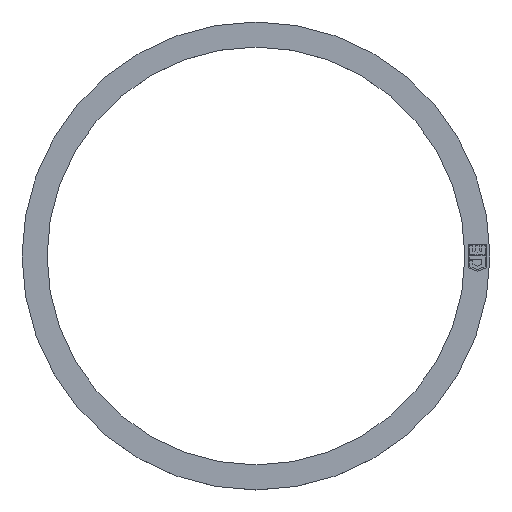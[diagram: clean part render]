
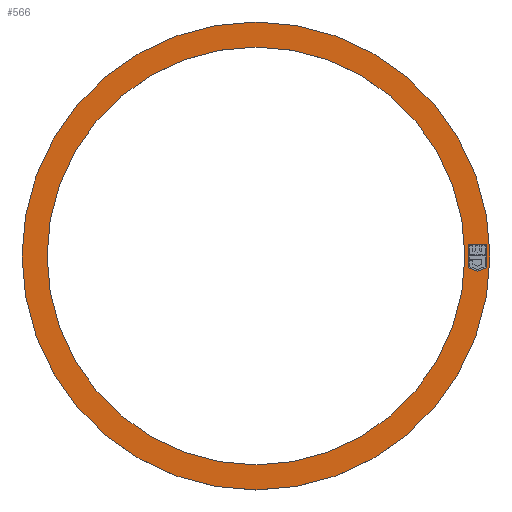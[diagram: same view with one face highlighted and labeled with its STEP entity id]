
A CAD part, top view. The second image highlights one B-rep face of the part: STEP entity #566.
In plain terms, the highlighted planar face has unit normal (0, 0, 1).
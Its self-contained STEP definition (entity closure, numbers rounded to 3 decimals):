
#274 = CARTESIAN_POINT ( 'NONE',  ( -28., 0., 2. ) ) ;
#284 = CARTESIAN_POINT ( 'NONE',  ( 28., 0., 2. ) ) ;
#285 = DIRECTION ( 'NONE',  ( 1., 0., 0. ) ) ;
#286 = DIRECTION ( 'NONE',  ( 0., 0., 1. ) ) ;
#287 = CARTESIAN_POINT ( 'NONE',  ( 0., 0., 2. ) ) ;
#288 = AXIS2_PLACEMENT_3D ( 'NONE', #287, #286, #285 ) ;
#289 = CIRCLE ( 'NONE', #288, 28. ) ;
#333 = CARTESIAN_POINT ( 'NONE',  ( -25., 0., 2. ) ) ;
#532 = EDGE_CURVE ( 'NONE', #942, #533, #1076, .T. ) ;
#533 = VERTEX_POINT ( 'NONE', #1071 ) ;
#556 = EDGE_CURVE ( 'NONE', #579, #653, #1104, .T. ) ;
#560 = ORIENTED_EDGE ( 'NONE', *, *, #561, .T. ) ;
#561 = EDGE_CURVE ( 'NONE', #915, #923, #1149, .T. ) ;
#562 = EDGE_CURVE ( 'NONE', #533, #942, #1162, .T. ) ;
#563 = EDGE_LOOP ( 'NONE', ( #564, #565 ) ) ;
#564 = ORIENTED_EDGE ( 'NONE', *, *, #532, .F. ) ;
#565 = ORIENTED_EDGE ( 'NONE', *, *, #562, .F. ) ;
#566 = ADVANCED_FACE ( 'NONE', ( #1245, #1244, #1243 ), #1241, .T. ) ;
#567 = EDGE_LOOP ( 'NONE', ( #560, #594 ) ) ;
#574 = ORIENTED_EDGE ( 'NONE', *, *, #584, .T. ) ;
#575 = ORIENTED_EDGE ( 'NONE', *, *, #583, .T. ) ;
#577 = VERTEX_POINT ( 'NONE', #1085 ) ;
#578 = VERTEX_POINT ( 'NONE', #1084 ) ;
#579 = VERTEX_POINT ( 'NONE', #1130 ) ;
#580 = EDGE_CURVE ( 'NONE', #582, #577, #1129, .T. ) ;
#581 = ORIENTED_EDGE ( 'NONE', *, *, #654, .T. ) ;
#582 = VERTEX_POINT ( 'NONE', #1100 ) ;
#583 = EDGE_CURVE ( 'NONE', #577, #578, #1099, .T. ) ;
#584 = EDGE_CURVE ( 'NONE', #578, #579, #1134, .T. ) ;
#585 = ORIENTED_EDGE ( 'NONE', *, *, #556, .T. ) ;
#586 = ORIENTED_EDGE ( 'NONE', *, *, #580, .T. ) ;
#594 = ORIENTED_EDGE ( 'NONE', *, *, #922, .T. ) ;
#595 = EDGE_LOOP ( 'NONE', ( #574, #585, #581, #586, #575 ) ) ;
#653 = VERTEX_POINT ( 'NONE', #1145 ) ;
#654 = EDGE_CURVE ( 'NONE', #653, #582, #1144, .T. ) ;
#915 = VERTEX_POINT ( 'NONE', #274 ) ;
#922 = EDGE_CURVE ( 'NONE', #923, #915, #289, .T. ) ;
#923 = VERTEX_POINT ( 'NONE', #284 ) ;
#942 = VERTEX_POINT ( 'NONE', #333 ) ;
#1071 = CARTESIAN_POINT ( 'NONE',  ( 25., 0., 2. ) ) ;
#1072 = DIRECTION ( 'NONE',  ( 1., 0., 0. ) ) ;
#1073 = DIRECTION ( 'NONE',  ( 0., 0., 1. ) ) ;
#1074 = CARTESIAN_POINT ( 'NONE',  ( 0., 0., 2. ) ) ;
#1075 = AXIS2_PLACEMENT_3D ( 'NONE', #1074, #1073, #1072 ) ;
#1076 = CIRCLE ( 'NONE', #1075, 25. ) ;
#1084 = CARTESIAN_POINT ( 'NONE',  ( 27.595, -1.393, 2. ) ) ;
#1085 = CARTESIAN_POINT ( 'NONE',  ( 27.595, 1.393, 2. ) ) ;
#1091 = DIRECTION ( 'NONE',  ( 1., 0., 0. ) ) ;
#1092 = DIRECTION ( 'NONE',  ( 0., 0., 1. ) ) ;
#1093 = CARTESIAN_POINT ( 'NONE',  ( 0., 0., 2. ) ) ;
#1094 = AXIS2_PLACEMENT_3D ( 'NONE', #1093, #1092, #1091 ) ;
#1096 = DIRECTION ( 'NONE',  ( 0., -1., 0. ) ) ;
#1097 = VECTOR ( 'NONE', #1096, 1000. ) ;
#1098 = CARTESIAN_POINT ( 'NONE',  ( 27.595, 1.393, 2. ) ) ;
#1099 = LINE ( 'NONE', #1098, #1097 ) ;
#1100 = CARTESIAN_POINT ( 'NONE',  ( 25.405, 1.393, 2. ) ) ;
#1101 = DIRECTION ( 'NONE',  ( -0.924, 0.383, 0. ) ) ;
#1102 = VECTOR ( 'NONE', #1101, 1000. ) ;
#1103 = CARTESIAN_POINT ( 'NONE',  ( 26.5, -1.847, 2. ) ) ;
#1104 = LINE ( 'NONE', #1103, #1102 ) ;
#1126 = DIRECTION ( 'NONE',  ( 1., 0., 0. ) ) ;
#1127 = VECTOR ( 'NONE', #1126, 1000. ) ;
#1128 = CARTESIAN_POINT ( 'NONE',  ( 25.405, 1.393, 2. ) ) ;
#1129 = LINE ( 'NONE', #1128, #1127 ) ;
#1130 = CARTESIAN_POINT ( 'NONE',  ( 26.5, -1.847, 2. ) ) ;
#1131 = DIRECTION ( 'NONE',  ( -0.924, -0.383, 0. ) ) ;
#1132 = VECTOR ( 'NONE', #1131, 1000. ) ;
#1133 = CARTESIAN_POINT ( 'NONE',  ( 26.5, -1.847, 2. ) ) ;
#1134 = LINE ( 'NONE', #1133, #1132 ) ;
#1141 = DIRECTION ( 'NONE',  ( 0., 1., 0. ) ) ;
#1142 = VECTOR ( 'NONE', #1141, 1000. ) ;
#1143 = CARTESIAN_POINT ( 'NONE',  ( 25.405, -1.393, 2. ) ) ;
#1144 = LINE ( 'NONE', #1143, #1142 ) ;
#1145 = CARTESIAN_POINT ( 'NONE',  ( 25.405, -1.393, 2. ) ) ;
#1146 = DIRECTION ( 'NONE',  ( 0., 0., 1. ) ) ;
#1147 = CARTESIAN_POINT ( 'NONE',  ( 0., 0., 2. ) ) ;
#1148 = AXIS2_PLACEMENT_3D ( 'NONE', #1147, #1146, #1203 ) ;
#1149 = CIRCLE ( 'NONE', #1148, 28. ) ;
#1150 = CARTESIAN_POINT ( 'NONE',  ( 0., 0., 2. ) ) ;
#1159 = DIRECTION ( 'NONE',  ( 1., 0., 0. ) ) ;
#1160 = DIRECTION ( 'NONE',  ( 0., 0., 1. ) ) ;
#1161 = AXIS2_PLACEMENT_3D ( 'NONE', #1150, #1160, #1159 ) ;
#1162 = CIRCLE ( 'NONE', #1161, 25. ) ;
#1203 = DIRECTION ( 'NONE',  ( 1., 0., 0. ) ) ;
#1241 = PLANE ( 'NONE',  #1094 ) ;
#1243 = FACE_BOUND ( 'NONE', #595, .T. ) ;
#1244 = FACE_OUTER_BOUND ( 'NONE', #567, .T. ) ;
#1245 = FACE_BOUND ( 'NONE', #563, .T. ) ;
